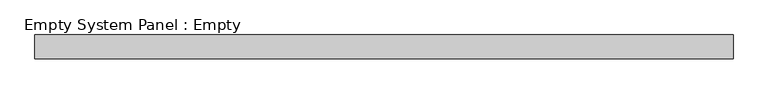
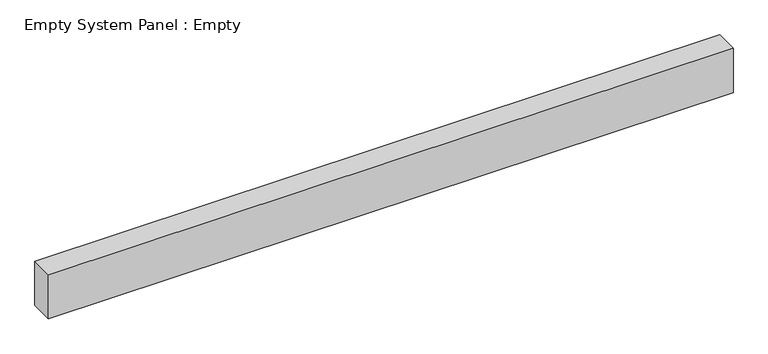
"""IFC4 building model written with IfcOpenShell, lengths in millimetres: plate geometry, Empty System Panel : Empty."""

import ifcopenshell
import ifcopenshell.guid

model = None  # the IFC model being written
_history = None  # IfcOwnerHistory: only IFC2X3 demands one
_inside = {}  # id of a spatial element -> (the spatial element, [elements in it])
_under = {}  # id of a project, library or spatial element -> (it, [spatial elements below it])
_declared = {}  # id of a project -> (the project, [libraries it declares])
_typed = {}  # id of a type object -> (the type object, [elements of that type])
_made_of = {}  # id of a material, layer set ... -> (it, [elements and type objects made of it])


def new_model(schema):
    """Start an empty IFC model of exactly this schema.

    Asked for "IFC4X3", IfcOpenShell would pick the latest addendum, in which some entities
    have other attributes; the version numbers below select the first issue.
    IFC2X3 requires an IfcOwnerHistory on every rooted entity: one is made here for all.
    """
    global model, _history
    if schema == "IFC4X3":
        model = ifcopenshell.file(schema_version=(4, 3, 0, 0))
    else:
        model = ifcopenshell.file(schema=schema)
    _inside.clear()
    _under.clear()
    _declared.clear()
    _typed.clear()
    _made_of.clear()
    _history = None
    if model.schema == "IFC2X3":
        org = make("IfcOrganization", Name="unknown")
        user = make(
            "IfcPersonAndOrganization",
            ThePerson=make("IfcPerson", FamilyName="unknown"),
            TheOrganization=org,
        )
        app = make(
            "IfcApplication",
            ApplicationDeveloper=org,
            Version="unknown",
            ApplicationFullName="unknown",
            ApplicationIdentifier="unknown",
        )
        _history = make(
            "IfcOwnerHistory",
            OwningUser=user,
            OwningApplication=app,
            ChangeAction="ADDED",
            CreationDate=0,
        )
    return model


def make(cls, **values):
    """One entity of the class cls with the attributes given. An attribute that is None is left unset."""
    return model.create_entity(
        cls, **{name: value for name, value in values.items() if value is not None}
    )


def rooted(cls, **values):
    """An entity with a GlobalId (a new one), such as an element, a storey or a relation."""
    return make(cls, GlobalId=ifcopenshell.guid.new(), OwnerHistory=_history, **values)


def si_unit(unit_type, name, prefix=None):
    """IfcSIUnit, for example si_unit("LENGTHUNIT", "METRE", prefix="MILLI")."""
    return make("IfcSIUnit", UnitType=unit_type, Prefix=prefix, Name=name)


def assignment(units):
    """IfcUnitAssignment: the units of a project."""
    return None if units is None else make("IfcUnitAssignment", Units=units)


def point(xyz):
    """IfcCartesianPoint."""
    return None if xyz is None else make("IfcCartesianPoint", Coordinates=xyz)


def direction(xyz):
    """IfcDirection."""
    return None if xyz is None else make("IfcDirection", DirectionRatios=xyz)


def frame(location, z_axis=None, x_axis=None):
    """IfcAxis2Placement3D, a coordinate frame: its origin and axes. An axis left out is left unset."""
    return make(
        "IfcAxis2Placement3D",
        Location=point(location),
        Axis=direction(z_axis),
        RefDirection=direction(x_axis),
    )


def origin():
    """The frame at (0, 0, 0) with its axes left unset."""
    return frame((0.0, 0.0, 0.0))


def origin_with_axes():
    """The frame at (0, 0, 0) with the z axis (0, 0, 1) and the x axis (1, 0, 0) written out."""
    return frame((0.0, 0.0, 0.0), z_axis=(0.0, 0.0, 1.0), x_axis=(1.0, 0.0, 0.0))


def place(relative_to, where):
    """IfcLocalPlacement: puts the frame where relative to a parent placement (None: the world)."""
    return make(
        "IfcLocalPlacement", PlacementRelTo=relative_to, RelativePlacement=where
    )


def context(
    kind, dimensions, precision=None, world=None, true_north=None, identifier=None
):
    """IfcGeometricRepresentationContext, for example the 3D "Model" context."""
    return make(
        "IfcGeometricRepresentationContext",
        ContextIdentifier=identifier,
        ContextType=kind,
        CoordinateSpaceDimension=dimensions,
        Precision=precision,
        WorldCoordinateSystem=world,
        TrueNorth=true_north,
    )


def project(units=None, contexts=None):
    """IfcProject with its units and contexts."""
    return rooted(
        "IfcProject",
        Name="project",
        RepresentationContexts=contexts,
        UnitsInContext=assignment(units),
    )


def spatial(cls, under=None, at=None, **own):
    """A site, building, storey or space (cls), placed at a placement, below another one or the project."""
    s = rooted(cls, ObjectPlacement=at, **own)
    if under is not None:
        _under.setdefault(under.id(), (under, []))[1].append(s)
    return s


def polyline(points):
    """IfcPolyline through the points."""
    return make("IfcPolyline", Points=[point(p) for p in points])


def outline(outer, holes=None, kind="AREA"):
    """IfcArbitraryClosedProfileDef: a profile drawn as a closed curve; with holes, ...WithVoids."""
    if holes is None:
        return make("IfcArbitraryClosedProfileDef", ProfileType=kind, OuterCurve=outer)
    return make(
        "IfcArbitraryProfileDefWithVoids",
        ProfileType=kind,
        OuterCurve=outer,
        InnerCurves=holes,
    )


def extrude(swept, where, along, depth):
    """IfcExtrudedAreaSolid: the profile swept, set in the frame where, extruded along a direction by depth."""
    return make(
        "IfcExtrudedAreaSolid",
        SweptArea=swept,
        Position=where,
        ExtrudedDirection=direction(along),
        Depth=depth,
    )


def shape(context_of_items, identifier, shape_type, items):
    """IfcShapeRepresentation: the items that make up one representation, for example the "Body"."""
    return make(
        "IfcShapeRepresentation",
        ContextOfItems=context_of_items,
        RepresentationIdentifier=identifier,
        RepresentationType=shape_type,
        Items=items,
    )


def source(mapping_origin, context_of_items, identifier, shape_type, items):
    """IfcRepresentationMap: a shape defined once, which mapped items show again and again."""
    return make(
        "IfcRepresentationMap",
        MappingOrigin=mapping_origin,
        MappedRepresentation=shape(context_of_items, identifier, shape_type, items),
    )


def transform(
    local_origin,
    x_axis=None,
    y_axis=None,
    z_axis=None,
    scale=None,
    scale2=None,
    scale3=None,
    uniform=True,
):
    """IfcCartesianTransformationOperator3D, or its non-uniform kind. x_axis, y_axis, z_axis: its Axis1, 2, 3."""
    if uniform:
        return make(
            "IfcCartesianTransformationOperator3D",
            Axis1=direction(x_axis),
            Axis2=direction(y_axis),
            LocalOrigin=point(local_origin),
            Scale=scale,
            Axis3=direction(z_axis),
        )
    return make(
        "IfcCartesianTransformationOperator3DnonUniform",
        Axis1=direction(x_axis),
        Axis2=direction(y_axis),
        LocalOrigin=point(local_origin),
        Scale=scale,
        Axis3=direction(z_axis),
        Scale2=scale2,
        Scale3=scale3,
    )


def mapped(mapping_source, mapping_target):
    """IfcMappedItem: shows the shape of a source again, moved by a transform."""
    return make(
        "IfcMappedItem", MappingSource=mapping_source, MappingTarget=mapping_target
    )


def made_of(thing, what):
    """Note that an element or type object is made of a material, layer set ...; save() writes the relation."""
    if what is not None:
        _made_of.setdefault(what.id(), (what, []))[1].append(thing)
    return thing


def element(
    cls,
    number,
    at=None,
    inside=None,
    cuts=None,
    type_object=None,
    material=None,
    context=None,
    identifier="Body",
    shape_type=None,
    held_by="IfcProductDefinitionShape",
    body=None,
    shapes=None,
    **own,
):
    """One element of the class cls, such as IfcWall. Its Tag is "e" and its number.

    at: its placement. inside: the storey or other place that contains it. cuts: it is an
    opening in that element (IfcRelVoidsElement). A single representation is given by context,
    identifier, shape_type and body (its items); several are given by shapes. held_by: the class
    of the entity that holds the representations. save() writes the other relations.
    """
    e = rooted(cls, Tag="e%d" % number, ObjectPlacement=at, **own)
    if body is not None:
        shapes = [shape(context, identifier, shape_type, body)]
    if shapes is not None:
        e.Representation = make(held_by, Representations=shapes)
    if inside is not None:
        _inside.setdefault(inside.id(), (inside, []))[1].append(e)
    if cuts is not None:
        rooted(
            "IfcRelVoidsElement", RelatingBuildingElement=cuts, RelatedOpeningElement=e
        )
    if type_object is not None:
        _typed.setdefault(type_object.id(), (type_object, []))[1].append(e)
    return made_of(e, material)


def aggregate(whole, parts):
    """IfcRelAggregates: a whole, such as a stair, and the parts it consists of."""
    return rooted("IfcRelAggregates", RelatingObject=whole, RelatedObjects=parts)


def save(model, path):
    """Write the relations noted so far, then the file.

    IfcRelAggregates (storeys below a building ...), IfcRelContainedInSpatialStructure (elements
    in a storey), IfcRelDefinesByType, IfcRelAssociatesMaterial and IfcRelDeclares: one each for
    every whole, place, type object, material and project.
    """
    for whole, parts in _under.values():
        aggregate(whole, parts)
    for where, things in _inside.values():
        rooted(
            "IfcRelContainedInSpatialStructure",
            RelatedElements=things,
            RelatingStructure=where,
        )
    for kind, things in _typed.values():
        rooted("IfcRelDefinesByType", RelatedObjects=things, RelatingType=kind)
    for what, things in _made_of.values():
        rooted("IfcRelAssociatesMaterial", RelatedObjects=things, RelatingMaterial=what)
    for by, libraries in _declared.values():
        rooted("IfcRelDeclares", RelatingContext=by, RelatedDefinitions=libraries)
    model.write(path)


def empty_system_panel_empty_34a2d59f(model_context):
    return source(origin(), model_context, "Body", "SweptSolid", [
        extrude(outline(polyline([(1462.5, -50.0), (-1462.5, -50.0), (-1462.5, 50.0), (1462.5, 50.0), (1462.5, -50.0)])), origin_with_axes(), (0.0, 0.0, 1.0), 200.0),
    ])


if __name__ == "__main__":
    model = new_model("IFC4")
    model_context = context("Model", 3, world=origin())
    ifc_project = project(units=[si_unit("LENGTHUNIT", "METRE", prefix="MILLI")], contexts=[model_context])
    site = spatial("IfcSite", under=ifc_project)
    building = spatial("IfcBuilding", under=site)
    placement = place(None, origin())
    empty_system_panel_empty_shape = empty_system_panel_empty_34a2d59f(model_context)
    element("IfcPlate", 1, ObjectType="Empty System Panel : Empty", at=placement, inside=building, context=model_context, shape_type="MappedRepresentation", body=[
        mapped(empty_system_panel_empty_shape, transform((0.0, 0.0, 0.0), x_axis=(1.0, 0.0, 0.0), y_axis=(0.0, 1.0, 0.0), z_axis=(0.0, 0.0, 1.0))),
    ])
    save(model, "model.ifc")
